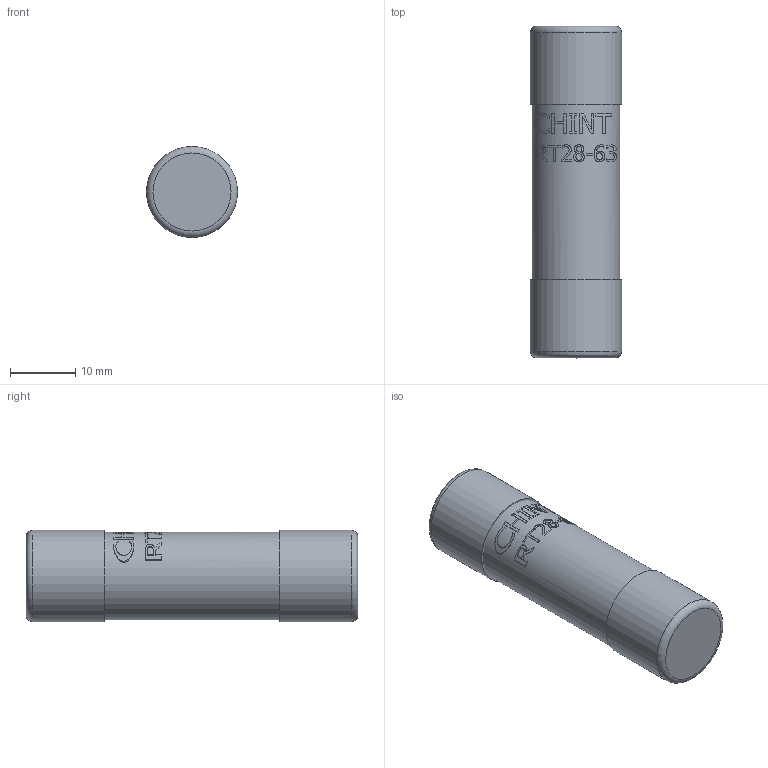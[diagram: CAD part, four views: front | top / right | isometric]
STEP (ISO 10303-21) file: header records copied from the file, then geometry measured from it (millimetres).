
FILE_DESCRIPTION(/* description */ (''),/* implementation_level */ '2;1');
FILE_NAME(/* name */ 'D:\CHINT\RT28\Вставки цил RT28N-63 (CHINT).stp',/* time_stamp */ '2017-09-30T16:06:25+04:00',/* author */ ('RSagdiev'),/* organization */ (''),/* preprocessor_version */ 'ST-DEVELOPER v16.5',/* originating_system */ 'Autodesk Inventor 2017',/* authorisation */ '');
FILE_SCHEMA (('AUTOMOTIVE_DESIGN { 1 0 10303 214 3 1 1 }'));
Length unit declared in the file: millimetre
Products named in the file (1): Вставки цил 
RT28N-63 (CHINT)
Bounding box: 14 x 51 x 14 mm (x, y, z)
Surface area: 3902.2 mm2
Topology: 3 solids, 3 shells, 205 faces, 547 edges, 364 vertices
Faces by surface type: plane 93, bspline 91, cylinder 19, torus 2
Full cylindrical faces by diameter (mm): 13.4 x1, 14 x2
Entity records: 8105 total; most frequent: CARTESIAN_POINT 3479, ORIENTED_EDGE 1084, DIRECTION 690, EDGE_CURVE 542, VERTEX_POINT 364, LINE 260, VECTOR 260, EDGE_LOOP 226
